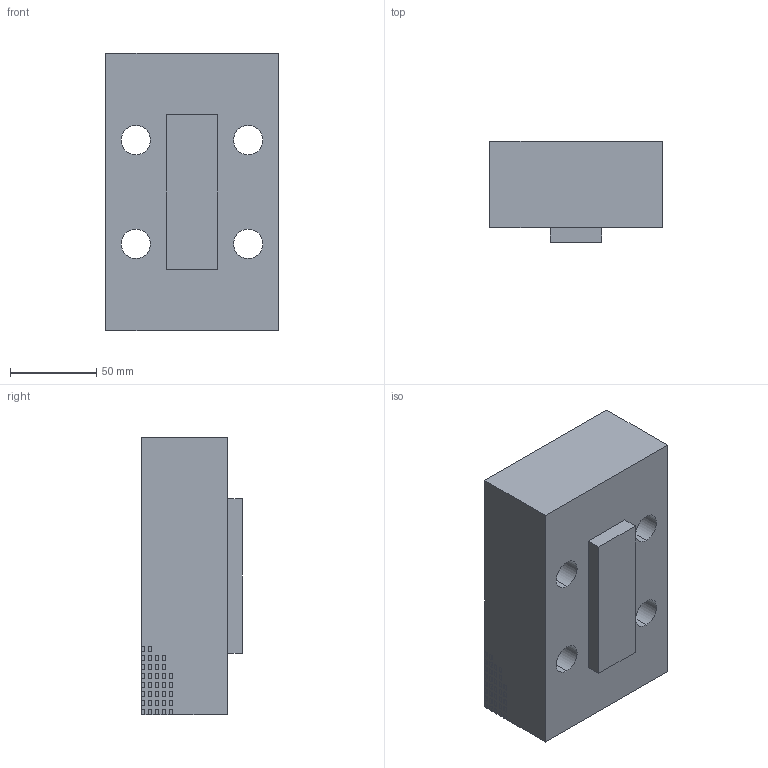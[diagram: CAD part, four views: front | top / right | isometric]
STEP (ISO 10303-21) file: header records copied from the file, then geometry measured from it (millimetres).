
FILE_DESCRIPTION (( 'STEP AP203' ), '1' );
FILE_NAME ('6921704004740.STEP', '2008-12-15T08:40:16', ( ' ' ), ( '' ), 'SwSTEP 2.0', 'SolidWorks 2008', '' );
FILE_SCHEMA (( 'CONFIG_CONTROL_DESIGN' ));
Length unit declared in the file: millimetre
Products named in the file (1): 6921704004740
Bounding box: 100 x 58.4 x 160.4 mm (x, y, z)
Volume: 755814.3 mm3; surface area: 71570.9 mm2
Topology: 1 solids, 1 shells, 213 faces, 535 edges, 351 vertices
Faces by surface type: plane 179, cylinder 26, cone 8
Entity records: 6330 total; most frequent: CARTESIAN_POINT 1094, ORIENTED_EDGE 1058, DIRECTION 1011, EDGE_CURVE 529, VECTOR 475, LINE 475, VERTEX_POINT 351, AXIS2_PLACEMENT_3D 268
